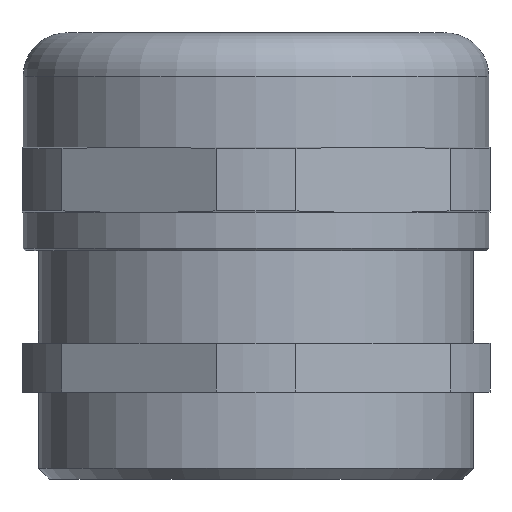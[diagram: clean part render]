
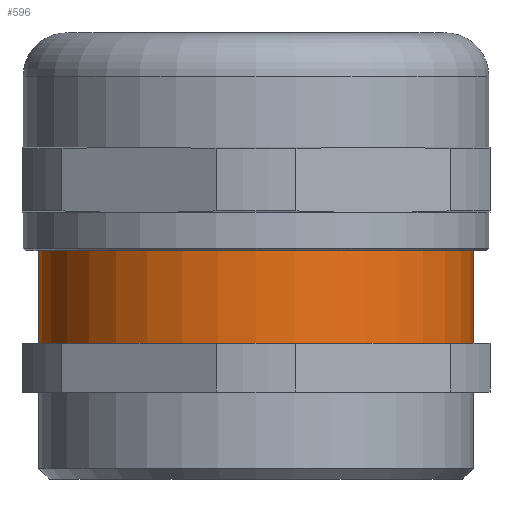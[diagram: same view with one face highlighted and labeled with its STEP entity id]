
A CAD part, front view. The second image highlights one B-rep face of the part: STEP entity #596.
In plain terms, the highlighted cylindrical face has radius 20 mm (diameter 40 mm), a partial arc.
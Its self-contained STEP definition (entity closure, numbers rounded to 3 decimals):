
#252 = EDGE_CURVE ( 'NONE', #2502, #254, #1194, .T. ) ;
#254 = VERTEX_POINT ( 'NONE', #1199 ) ;
#255 = EDGE_CURVE ( 'NONE', #2503, #277, #1204, .T. ) ;
#277 = VERTEX_POINT ( 'NONE', #1254 ) ;
#451 = ORIENTED_EDGE ( 'NONE', *, *, #252, .T. ) ;
#472 = ORIENTED_EDGE ( 'NONE', *, *, #637, .T. ) ;
#510 = EDGE_LOOP ( 'NONE', ( #2530, #472, #451, #636 ) ) ;
#596 = ADVANCED_FACE ( 'NONE', ( #1679 ), #1676, .T. ) ;
#599 = EDGE_CURVE ( 'NONE', #277, #254, #1677, .T. ) ;
#636 = ORIENTED_EDGE ( 'NONE', *, *, #599, .F. ) ;
#637 = EDGE_CURVE ( 'NONE', #2503, #2502, #1758, .T. ) ;
#1192 = DIRECTION ( 'NONE',  ( 0., 0., -1. ) ) ;
#1193 = CARTESIAN_POINT ( 'NONE',  ( -20., 0., 0. ) ) ;
#1194 = LINE ( 'NONE', #1193, #1195 ) ;
#1195 = VECTOR ( 'NONE', #1192, 1000. ) ;
#1199 = CARTESIAN_POINT ( 'NONE',  ( -20., 0., 12.5 ) ) ;
#1202 = DIRECTION ( 'NONE',  ( 0., 0., -1. ) ) ;
#1203 = CARTESIAN_POINT ( 'NONE',  ( 20., 0., 0. ) ) ;
#1204 = LINE ( 'NONE', #1203, #1213 ) ;
#1213 = VECTOR ( 'NONE', #1202, 1000. ) ;
#1254 = CARTESIAN_POINT ( 'NONE',  ( 20., 0., 12.5 ) ) ;
#1669 = DIRECTION ( 'NONE',  ( -1., 0., 0. ) ) ;
#1670 = DIRECTION ( 'NONE',  ( 0., 0., -1. ) ) ;
#1671 = CARTESIAN_POINT ( 'NONE',  ( 0., 0., 12.5 ) ) ;
#1672 = AXIS2_PLACEMENT_3D ( 'NONE', #1671, #1670, #1669 ) ;
#1673 = DIRECTION ( 'NONE',  ( -1., 0., 0. ) ) ;
#1674 = DIRECTION ( 'NONE',  ( 0., 0., -1. ) ) ;
#1675 = AXIS2_PLACEMENT_3D ( 'NONE', #1678, #1674, #1673 ) ;
#1676 = CYLINDRICAL_SURFACE ( 'NONE', #1675, 20. ) ;
#1677 = CIRCLE ( 'NONE', #1672, 20. ) ;
#1678 = CARTESIAN_POINT ( 'NONE',  ( 0., 0., 0. ) ) ;
#1679 = FACE_OUTER_BOUND ( 'NONE', #510, .T. ) ;
#1757 = AXIS2_PLACEMENT_3D ( 'NONE', #1802, #1801, #1800 ) ;
#1758 = CIRCLE ( 'NONE', #1757, 20. ) ;
#1800 = DIRECTION ( 'NONE',  ( -1., 0., 0. ) ) ;
#1801 = DIRECTION ( 'NONE',  ( 0., 0., -1. ) ) ;
#1802 = CARTESIAN_POINT ( 'NONE',  ( 0., 0., 21. ) ) ;
#2502 = VERTEX_POINT ( 'NONE', #2835 ) ;
#2503 = VERTEX_POINT ( 'NONE', #2853 ) ;
#2530 = ORIENTED_EDGE ( 'NONE', *, *, #255, .F. ) ;
#2835 = CARTESIAN_POINT ( 'NONE',  ( -20., 0., 21. ) ) ;
#2853 = CARTESIAN_POINT ( 'NONE',  ( 20., 0., 21. ) ) ;
